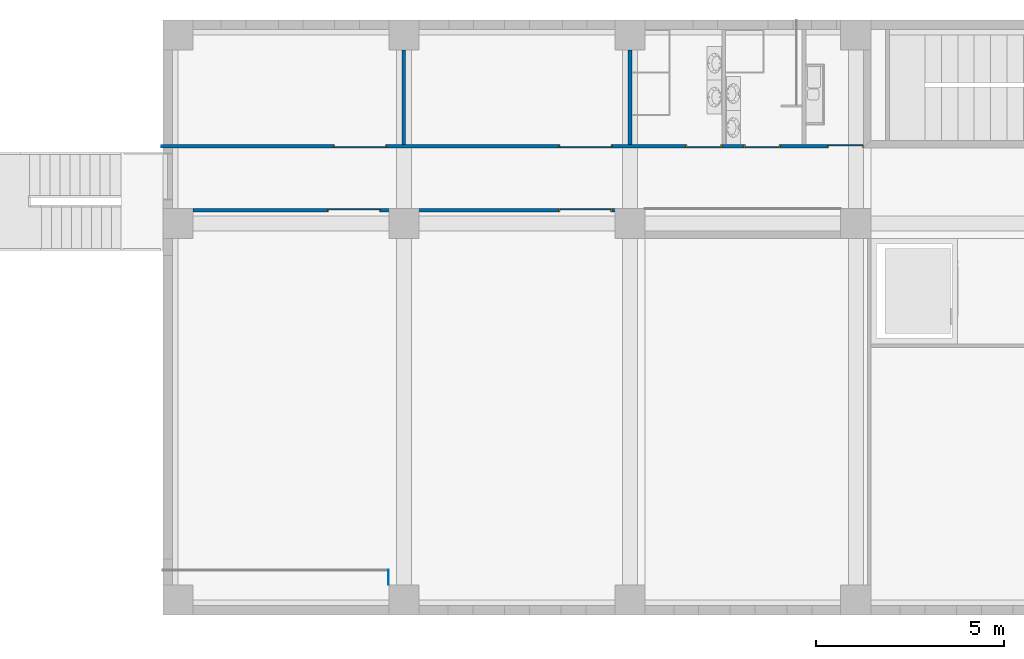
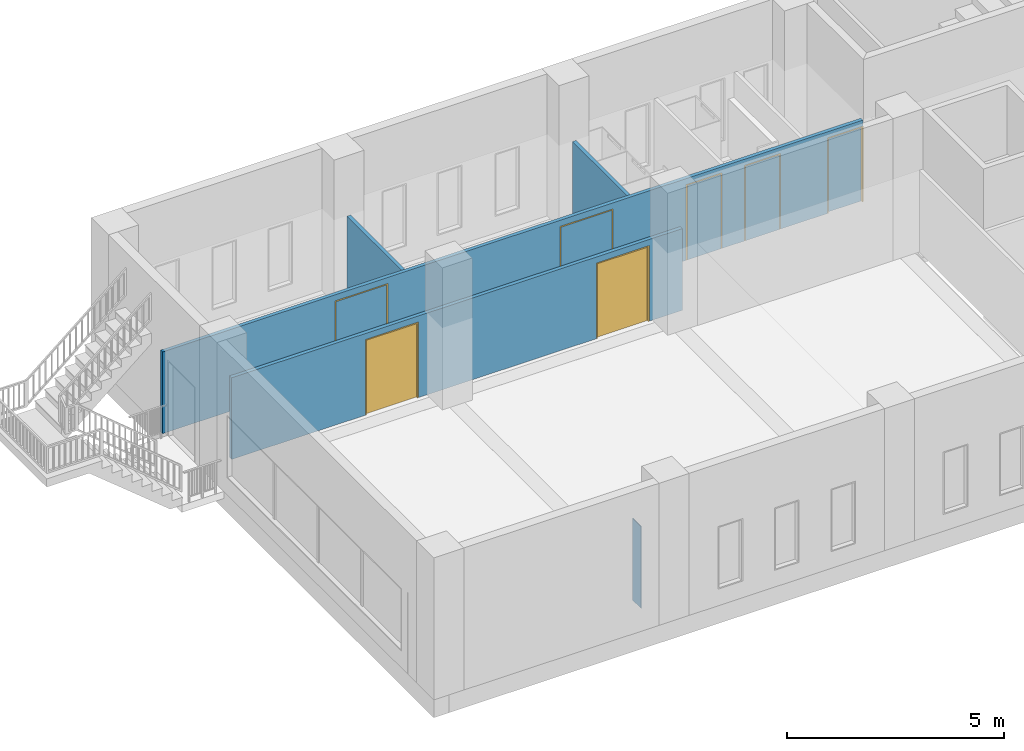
# One storey, part 2 of 14: 7 doors, 5 walls, 7 openings.
"""IFC2X3 building model written with IfcOpenShell, lengths in millimetres."""

from ifc_helpers import new_model, entity, si_unit, converted_unit, direction, frame, origin_with_axes, origin_2d_with_axis, place, context, project, spatial, polyline, rectangle, outline, extrude, open_shell, surface_model, material, layer, layer_set, layer_usage, type_object, element, fill, save


model = new_model("IFC2X3")

# Units and contexts
model_context = context("Model", 3, precision=1e-05, world=origin_with_axes(), true_north=direction((0.0, 1.0)))
ifc_project = project(units=[si_unit("LENGTHUNIT", "METRE", prefix="MILLI"), si_unit("AREAUNIT", "SQUARE_METRE"), si_unit("VOLUMEUNIT", "CUBIC_METRE"), converted_unit("PLANEANGLEUNIT", "DEGREE", entity("IfcPlaneAngleMeasure", 0.017453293), si_unit("PLANEANGLEUNIT", "RADIAN"), dimensions=[0, 0, 0, 0, 0, 0, 0]), si_unit("SOLIDANGLEUNIT", "STERADIAN"), si_unit("MASSUNIT", "GRAM"), si_unit("TIMEUNIT", "SECOND"), si_unit("THERMODYNAMICTEMPERATUREUNIT", "DEGREE_CELSIUS"), si_unit("LUMINOUSINTENSITYUNIT", "LUMEN")], contexts=[model_context])

# Site, building, storey
site_placement = place(None, origin_with_axes())
site = spatial("IfcSite", under=ifc_project, at=site_placement, Name="\x83T\x83C\x83g", CompositionType="ELEMENT")
building_placement = place(site_placement, origin_with_axes())
building = spatial("IfcBuilding", under=site, at=building_placement, Name="Daitec-Sample 201208", CompositionType="ELEMENT")
storey_placement = place(building_placement, frame((0.0, 0.0, 4000.0), z_axis=(0.0, 0.0, 1.0), x_axis=(1.0, 0.0, 0.0)))
storey = spatial("IfcBuildingStorey", under=building, at=storey_placement, Name="2F", CompositionType="ELEMENT", Elevation=4000.0)

# Wall, openings, doors
ifc_material_1 = material(Name="\x83v\x83\x89\x83X\x83^\x81[\x83{\x81[\x83h")
ifc_layer_1 = layer(ifc_material_1, 15.0, ventilated="UNKNOWN")
ifc_material_2 = material(Name="00_LGS")
ifc_layer_2 = layer(ifc_material_2, 65.0, ventilated="UNKNOWN")
ifc_layer_3 = layer(ifc_material_1, 15.0, ventilated="UNKNOWN")
ifc_layer_set_1 = layer_set([ifc_layer_1, ifc_layer_2, ifc_layer_3])
ifc_layer_usage_1 = layer_usage(ifc_layer_set_1, "AXIS2", "NEGATIVE", 0.0)
wall_type_1 = type_object("IfcWallType", PredefinedType="NOTDEFINED")
wall_1_placement = place(storey_placement, frame((6900.0, 18800.0, 0.0), z_axis=(0.0, 0.0, 1.0), x_axis=(1.0, 0.0, 0.0)))
wall_1 = element("IfcWallStandardCase", 1, at=wall_1_placement, inside=storey, type_object=wall_type_1, material=ifc_layer_usage_1, Name="W0", context=model_context, shape_type="SweptSolid", body=[
    extrude(outline(polyline([(0.0, -95.0), (12000.0, -95.0), (12000.0, 0.0), (0.0, 0.0), (0.0, -95.0)])), origin_with_axes(), (0.0, 0.0, 1.0), 2300.0),
])
opening_1_placement = place(wall_1_placement, frame((10415.263, 0.0, 0.0), z_axis=(0.0, 0.0, 1.0), x_axis=(1.0, 0.0, 0.0)))
opening_1 = element("IfcOpeningElement", 2, at=opening_1_placement, cuts=wall_1, context=model_context, shape_type="SweptSolid", body=[
    extrude(rectangle(XDim=1410.0, YDim=2130.0, at=origin_2d_with_axis()), frame((0.0, -46.5, 1065.0), z_axis=(0.0, -1.0, 0.0), x_axis=(1.0, 0.0, 0.0)), (0.0, 0.0, 1.0), 97.0),
])
opening_2_placement = place(wall_1_placement, frame((4270.5873, 0.0, 0.0), z_axis=(0.0, 0.0, 1.0), x_axis=(1.0, 0.0, 0.0)))
opening_2 = element("IfcOpeningElement", 3, at=opening_2_placement, cuts=wall_1, context=model_context, shape_type="SweptSolid", body=[
    extrude(rectangle(XDim=1410.0, YDim=2130.0, at=origin_2d_with_axis()), frame((0.0, -46.5, 1065.0), z_axis=(0.0, -1.0, 0.0), x_axis=(1.0, 0.0, 0.0)), (0.0, 0.0, 1.0), 97.0),
])
ifc_material_3 = material(Name="\x94w\x8ci")
door_style_1 = type_object("IfcDoorStyle", Name="\x90e\x8eq\x8aJ\x82«\x8cË_JX5", ConstructionType="NOTDEFINED", OperationType="NOTDEFINED", ParameterTakesPrecedence=False, Sizeable=False)
door_1_placement = place(opening_1_placement, frame((-675.0, 0.0, 0.0), z_axis=(0.0, 0.0, 1.0), x_axis=(1.0, 0.0, 0.0)))
door_1 = element("IfcDoor", 4, at=door_1_placement, inside=storey, type_object=door_style_1, material=ifc_material_3, Name="SD8", OverallHeight=2100.0, OverallWidth=1350.0, context=model_context, shape_type="SurfaceModel", body=[
    surface_model("IfcShellBasedSurfaceModel", [(900.0, -47.5, 0.0), (900.0, -47.5, 2100.0), (0.0, -47.5, 2100.0), (0.0, -47.5, 0.0)], [open_shell([[[0, 1, 2, 3]]])]),
    surface_model("IfcShellBasedSurfaceModel", [(900.0, -47.5, 0.0), (1350.0, -47.5, 0.0), (1350.0, -47.5, 2100.0), (900.0, -47.5, 2100.0)], [open_shell([[[0, 1, 2, 3]]])]),
    surface_model("IfcShellBasedSurfaceModel", [(1380.0, -95.0, 0.0), (1380.0, -95.0, 2130.0), (-30.0, -95.0, 2130.0), (-30.0, -95.0, 0.0), (0.0, -95.0, 0.0), (0.0, -95.0, 2100.0), (1350.0, -95.0, 2100.0), (1350.0, -95.0, 0.0)], [open_shell([[[0, 1, 2, 3, 4, 5, 6, 7]]])]),
    surface_model("IfcShellBasedSurfaceModel", [(1380.0, 0.0, 0.0), (1380.0, 0.0, 2130.0), (-30.0, 0.0, 2130.0), (-30.0, 0.0, 0.0), (0.0, 0.0, 0.0), (0.0, 0.0, 2100.0), (1350.0, 0.0, 2100.0), (1350.0, 0.0, 0.0)], [open_shell([[[0, 1, 2, 3, 4, 5, 6, 7]]])]),
    surface_model("IfcShellBasedSurfaceModel", [(1350.0, -95.0, 0.0), (1350.0, -95.0, 2100.0), (1350.0, 0.0, 2100.0), (1350.0, 0.0, 0.0), (0.0, -95.0, 2100.0), (0.0, 0.0, 2100.0), (1380.0, -95.0, 0.0), (1380.0, 0.0, 0.0), (0.0, -95.0, 0.0), (0.0, 0.0, 0.0), (1380.0, -95.0, 2130.0), (1380.0, 0.0, 2130.0), (-30.0, -95.0, 0.0), (-30.0, 0.0, 0.0), (-30.0, -95.0, 2130.0), (-30.0, 0.0, 2130.0)], [open_shell([[[0, 1, 2, 3]], [[1, 4, 5, 2]], [[6, 0, 3, 7]], [[4, 8, 9, 5]], [[10, 6, 7, 11]], [[8, 12, 13, 9]], [[14, 10, 11, 15]], [[12, 14, 15, 13]]])]),
])
fill(opening_1, door_1)
door_2_placement = place(opening_2_placement, frame((-675.0, 0.0, 0.0), z_axis=(0.0, 0.0, 1.0), x_axis=(1.0, 0.0, 0.0)))
door_2 = element("IfcDoor", 5, at=door_2_placement, inside=storey, type_object=door_style_1, material=ifc_material_3, Name="SD2", OverallHeight=2100.0, OverallWidth=1350.0, context=model_context, shape_type="SurfaceModel", body=[
    surface_model("IfcShellBasedSurfaceModel", [(900.0, -47.5, 0.0), (900.0, -47.5, 2100.0), (0.0, -47.5, 2100.0), (0.0, -47.5, 0.0)], [open_shell([[[0, 1, 2, 3]]])]),
    surface_model("IfcShellBasedSurfaceModel", [(900.0, -47.5, 0.0), (1350.0, -47.5, 0.0), (1350.0, -47.5, 2100.0), (900.0, -47.5, 2100.0)], [open_shell([[[0, 1, 2, 3]]])]),
    surface_model("IfcShellBasedSurfaceModel", [(1380.0, -95.0, 0.0), (1380.0, -95.0, 2130.0), (-30.0, -95.0, 2130.0), (-30.0, -95.0, 0.0), (0.0, -95.0, 0.0), (0.0, -95.0, 2100.0), (1350.0, -95.0, 2100.0), (1350.0, -95.0, 0.0)], [open_shell([[[0, 1, 2, 3, 4, 5, 6, 7]]])]),
    surface_model("IfcShellBasedSurfaceModel", [(1380.0, 0.0, 0.0), (1380.0, 0.0, 2130.0), (-30.0, 0.0, 2130.0), (-30.0, 0.0, 0.0), (0.0, 0.0, 0.0), (0.0, 0.0, 2100.0), (1350.0, 0.0, 2100.0), (1350.0, 0.0, 0.0)], [open_shell([[[0, 1, 2, 3, 4, 5, 6, 7]]])]),
    surface_model("IfcShellBasedSurfaceModel", [(1350.0, -95.0, 0.0), (1350.0, -95.0, 2100.0), (1350.0, 0.0, 2100.0), (1350.0, 0.0, 0.0), (0.0, -95.0, 2100.0), (0.0, 0.0, 2100.0), (1380.0, -95.0, 0.0), (1380.0, 0.0, 0.0), (0.0, -95.0, 0.0), (0.0, 0.0, 0.0), (1380.0, -95.0, 2130.0), (1380.0, 0.0, 2130.0), (-30.0, -95.0, 0.0), (-30.0, 0.0, 0.0), (-30.0, -95.0, 2130.0), (-30.0, 0.0, 2130.0)], [open_shell([[[0, 1, 2, 3]], [[1, 4, 5, 2]], [[6, 0, 3, 7]], [[4, 8, 9, 5]], [[10, 6, 7, 11]], [[8, 12, 13, 9]], [[14, 10, 11, 15]], [[12, 14, 15, 13]]])]),
])
fill(opening_2, door_2)

# Walls
ifc_layer_usage_2 = layer_usage(ifc_layer_set_1, "AXIS2", "POSITIVE", 0.0)
wall_2_placement = place(storey_placement, frame((18455.75, 23000.0, 0.0), z_axis=(0.0, 0.0, 1.0), x_axis=(0.0, -1.0, 0.0)))
element("IfcWallStandardCase", 6, at=wall_2_placement, inside=storey, type_object=wall_type_1, material=ifc_layer_usage_2, Name="W5", context=model_context, shape_type="SweptSolid", body=[
    extrude(outline(polyline([(0.0, 0.0), (2504.8739, 0.0), (2504.8739, 95.0), (0.0, 95.0), (0.0, 0.0)])), origin_with_axes(), (0.0, 0.0, 1.0), 2300.0),
])
ifc_layer_usage_3 = layer_usage(ifc_layer_set_1, "AXIS2", "NEGATIVE", 47.5)
wall_3_placement = place(storey_placement, frame((12500.0, 23000.0, 0.0), z_axis=(0.0, 0.0, 1.0), x_axis=(0.0, -1.0, 0.0)))
element("IfcWallStandardCase", 7, at=wall_3_placement, inside=storey, type_object=wall_type_1, material=ifc_layer_usage_3, Name="W5", context=model_context, shape_type="SweptSolid", body=[
    extrude(outline(polyline([(0.0, -47.5), (2504.8739, -47.5), (2504.8739, 47.5), (0.0, 47.5), (0.0, -47.5)])), origin_with_axes(), (0.0, 0.0, 1.0), 2300.0),
])

# Wall, openings, doors
ifc_layer_usage_4 = layer_usage(ifc_layer_set_1, "AXIS2", "NEGATIVE", 47.5)
wall_4_placement = place(storey_placement, frame((6038.448, 20447.626, 0.0), z_axis=(0.0, 0.0, 1.0), x_axis=(1.0, 0.0, 0.0)))
wall_4 = element("IfcWallStandardCase", 8, at=wall_4_placement, inside=storey, type_object=wall_type_1, material=ifc_layer_usage_4, Name="W3", context=model_context, shape_type="SweptSolid", body=[
    extrude(outline(polyline([(0.0, -47.5), (18651.119, -47.5), (18651.119, 47.5), (0.0, 47.5), (0.0, -47.5)])), origin_with_axes(), (0.0, 0.0, 1.0), 2300.0),
])
opening_3_placement = place(wall_4_placement, frame((18184.381, 0.0, 0.0), z_axis=(0.0, 0.0, 1.0), x_axis=(1.0, 0.0, 0.0)))
opening_3 = element("IfcOpeningElement", 9, at=opening_3_placement, cuts=wall_4, context=model_context, shape_type="SweptSolid", body=[
    extrude(rectangle(XDim=960.0, YDim=2130.0, at=origin_2d_with_axis()), frame((0.0, 1.0, 1065.0), z_axis=(0.0, -1.0, 0.0), x_axis=(1.0, 0.0, 0.0)), (0.0, 0.0, 1.0), 97.0),
])
opening_4_placement = place(wall_4_placement, frame((15977.651, 0.0, 0.0), z_axis=(0.0, 0.0, 1.0), x_axis=(1.0, 0.0, 0.0)))
opening_4 = element("IfcOpeningElement", 10, at=opening_4_placement, cuts=wall_4, context=model_context, shape_type="SweptSolid", body=[
    extrude(rectangle(XDim=960.0, YDim=2130.0, at=origin_2d_with_axis()), frame((0.0, 96.0, 1065.0), z_axis=(0.0, -1.0, 0.0), x_axis=(1.0, 0.0, 0.0)), (0.0, 0.0, 1.0), 97.0),
])
opening_5_placement = place(wall_4_placement, frame((5293.5018, 0.0, 0.0), z_axis=(0.0, 0.0, 1.0), x_axis=(1.0, 0.0, 0.0)))
opening_5 = element("IfcOpeningElement", 11, at=opening_5_placement, cuts=wall_4, context=model_context, shape_type="SweptSolid", body=[
    extrude(rectangle(XDim=1410.0, YDim=2130.0, at=origin_2d_with_axis()), frame((0.0, 96.0, 1065.0), z_axis=(0.0, -1.0, 0.0), x_axis=(1.0, 0.0, 0.0)), (0.0, 0.0, 1.0), 97.0),
])
opening_6_placement = place(wall_4_placement, frame((14423.879, 0.0, 0.0), z_axis=(0.0, 0.0, 1.0), x_axis=(1.0, 0.0, 0.0)))
opening_6 = element("IfcOpeningElement", 12, at=opening_6_placement, cuts=wall_4, context=model_context, shape_type="SweptSolid", body=[
    extrude(rectangle(XDim=960.0, YDim=2130.0, at=origin_2d_with_axis()), frame((0.0, 96.0, 1065.0), z_axis=(0.0, -1.0, 0.0), x_axis=(1.0, 0.0, 0.0)), (0.0, 0.0, 1.0), 97.0),
])
opening_7_placement = place(wall_4_placement, frame((11288.302, 0.0, 0.0), z_axis=(0.0, 0.0, 1.0), x_axis=(1.0, 0.0, 0.0)))
opening_7 = element("IfcOpeningElement", 13, at=opening_7_placement, cuts=wall_4, context=model_context, shape_type="SweptSolid", body=[
    extrude(rectangle(XDim=1410.0, YDim=2130.0, at=origin_2d_with_axis()), frame((0.0, 96.0, 1065.0), z_axis=(0.0, -1.0, 0.0), x_axis=(1.0, 0.0, 0.0)), (0.0, 0.0, 1.0), 97.0),
])
door_3_placement = place(opening_5_placement, frame((675.0, 0.0, 0.0), z_axis=(0.0, 0.0, 1.0), x_axis=(-1.0, 0.0, 0.0)))
door_3 = element("IfcDoor", 14, at=door_3_placement, inside=storey, type_object=door_style_1, material=ifc_material_3, Name="SD4", OverallHeight=2100.0, OverallWidth=1350.0, context=model_context, shape_type="SurfaceModel", body=[
    surface_model("IfcShellBasedSurfaceModel", [(450.0, 0.0, 0.0), (1350.0, 0.0, 0.0), (1350.0, 0.0, 2100.0), (450.0, 0.0, 2100.0)], [open_shell([[[0, 1, 2, 3]]])]),
    surface_model("IfcShellBasedSurfaceModel", [(450.0, 0.0, 0.0), (450.0, 0.0, 2100.0), (0.0, 0.0, 2100.0), (0.0, 0.0, 0.0)], [open_shell([[[0, 1, 2, 3]]])]),
    surface_model("IfcShellBasedSurfaceModel", [(-30.0, -47.5, 0.0), (0.0, -47.5, 0.0), (0.0, -47.5, 2100.0), (1350.0, -47.5, 2100.0), (1350.0, -47.5, 0.0), (1380.0, -47.5, 0.0), (1380.0, -47.5, 2130.0), (-30.0, -47.5, 2130.0)], [open_shell([[[0, 1, 2, 3, 4, 5, 6, 7]]])]),
    surface_model("IfcShellBasedSurfaceModel", [(-30.0, 47.5, 0.0), (0.0, 47.5, 0.0), (0.0, 47.5, 2100.0), (1350.0, 47.5, 2100.0), (1350.0, 47.5, 0.0), (1380.0, 47.5, 0.0), (1380.0, 47.5, 2130.0), (-30.0, 47.5, 2130.0)], [open_shell([[[0, 1, 2, 3, 4, 5, 6, 7]]])]),
    surface_model("IfcShellBasedSurfaceModel", [(0.0, -47.5, 0.0), (0.0, 47.5, 0.0), (0.0, 47.5, 2100.0), (0.0, -47.5, 2100.0), (-30.0, -47.5, 0.0), (-30.0, 47.5, 0.0), (1350.0, 47.5, 2100.0), (1350.0, -47.5, 2100.0), (-30.0, -47.5, 2130.0), (-30.0, 47.5, 2130.0), (1350.0, 47.5, 0.0), (1350.0, -47.5, 0.0), (1380.0, -47.5, 2130.0), (1380.0, 47.5, 2130.0), (1380.0, 47.5, 0.0), (1380.0, -47.5, 0.0)], [open_shell([[[0, 1, 2, 3]], [[4, 5, 1, 0]], [[3, 2, 6, 7]], [[8, 9, 5, 4]], [[7, 6, 10, 11]], [[12, 13, 9, 8]], [[11, 10, 14, 15]], [[15, 14, 13, 12]]])]),
])
fill(opening_5, door_3)
door_4_placement = place(opening_7_placement, frame((675.0, 0.0, 0.0), z_axis=(0.0, 0.0, 1.0), x_axis=(-1.0, 0.0, 0.0)))
door_4 = element("IfcDoor", 15, at=door_4_placement, inside=storey, type_object=door_style_1, material=ifc_material_3, Name="SD8", OverallHeight=2100.0, OverallWidth=1350.0, context=model_context, shape_type="SurfaceModel", body=[
    surface_model("IfcShellBasedSurfaceModel", [(450.0, 0.0, 0.0), (1350.0, 0.0, 0.0), (1350.0, 0.0, 2100.0), (450.0, 0.0, 2100.0)], [open_shell([[[0, 1, 2, 3]]])]),
    surface_model("IfcShellBasedSurfaceModel", [(450.0, 0.0, 0.0), (450.0, 0.0, 2100.0), (0.0, 0.0, 2100.0), (0.0, 0.0, 0.0)], [open_shell([[[0, 1, 2, 3]]])]),
    surface_model("IfcShellBasedSurfaceModel", [(-30.0, -47.5, 0.0), (0.0, -47.5, 0.0), (0.0, -47.5, 2100.0), (1350.0, -47.5, 2100.0), (1350.0, -47.5, 0.0), (1380.0, -47.5, 0.0), (1380.0, -47.5, 2130.0), (-30.0, -47.5, 2130.0)], [open_shell([[[0, 1, 2, 3, 4, 5, 6, 7]]])]),
    surface_model("IfcShellBasedSurfaceModel", [(-30.0, 47.5, 0.0), (0.0, 47.5, 0.0), (0.0, 47.5, 2100.0), (1350.0, 47.5, 2100.0), (1350.0, 47.5, 0.0), (1380.0, 47.5, 0.0), (1380.0, 47.5, 2130.0), (-30.0, 47.5, 2130.0)], [open_shell([[[0, 1, 2, 3, 4, 5, 6, 7]]])]),
    surface_model("IfcShellBasedSurfaceModel", [(0.0, -47.5, 0.0), (0.0, 47.5, 0.0), (0.0, 47.5, 2100.0), (0.0, -47.5, 2100.0), (-30.0, -47.5, 0.0), (-30.0, 47.5, 0.0), (1350.0, 47.5, 2100.0), (1350.0, -47.5, 2100.0), (-30.0, -47.5, 2130.0), (-30.0, 47.5, 2130.0), (1350.0, 47.5, 0.0), (1350.0, -47.5, 0.0), (1380.0, -47.5, 2130.0), (1380.0, 47.5, 2130.0), (1380.0, 47.5, 0.0), (1380.0, -47.5, 0.0)], [open_shell([[[0, 1, 2, 3]], [[4, 5, 1, 0]], [[3, 2, 6, 7]], [[8, 9, 5, 4]], [[7, 6, 10, 11]], [[12, 13, 9, 8]], [[11, 10, 14, 15]], [[15, 14, 13, 12]]])]),
])
fill(opening_7, door_4)
door_style_2 = type_object("IfcDoorStyle", ConstructionType="NOTDEFINED", OperationType="NOTDEFINED", ParameterTakesPrecedence=False, Sizeable=False)
door_5_placement = place(opening_4_placement, frame((-450.0, 0.0, 0.0), z_axis=(0.0, 0.0, 1.0), x_axis=(1.0, 0.0, 0.0)))
door_5 = element("IfcDoor", 16, at=door_5_placement, inside=storey, type_object=door_style_2, material=ifc_material_3, Name="SD3", OverallHeight=2100.0, OverallWidth=900.0, context=model_context, shape_type="SurfaceModel", body=[
    surface_model("IfcShellBasedSurfaceModel", [(900.0, 0.0, 0.0), (0.0, 0.0, 0.0), (0.0, 0.0, 2100.0), (900.0, 0.0, 2100.0)], [open_shell([[[0, 1, 2, 3]]])]),
    surface_model("IfcShellBasedSurfaceModel", [(930.0, 47.5, 0.0), (900.0, 47.5, 0.0), (900.0, 47.5, 2100.0), (0.0, 47.5, 2100.0), (0.0, 47.5, 0.0), (-30.0, 47.5, 0.0), (-30.0, 47.5, 2130.0), (930.0, 47.5, 2130.0)], [open_shell([[[0, 1, 2, 3, 4, 5, 6, 7]]])]),
    surface_model("IfcShellBasedSurfaceModel", [(930.0, -47.5, 0.0), (900.0, -47.5, 0.0), (900.0, -47.5, 2100.0), (0.0, -47.5, 2100.0), (0.0, -47.5, 0.0), (-30.0, -47.5, 0.0), (-30.0, -47.5, 2130.0), (930.0, -47.5, 2130.0)], [open_shell([[[0, 1, 2, 3, 4, 5, 6, 7]]])]),
    surface_model("IfcShellBasedSurfaceModel", [(900.0, 47.5, 0.0), (900.0, -47.5, 0.0), (900.0, -47.5, 2100.0), (900.0, 47.5, 2100.0), (930.0, 47.5, 0.0), (930.0, -47.5, 0.0), (0.0, -47.5, 2100.0), (0.0, 47.5, 2100.0), (930.0, 47.5, 2130.0), (930.0, -47.5, 2130.0), (0.0, -47.5, 0.0), (0.0, 47.5, 0.0), (-30.0, 47.5, 2130.0), (-30.0, -47.5, 2130.0), (-30.0, -47.5, 0.0), (-30.0, 47.5, 0.0)], [open_shell([[[0, 1, 2, 3]], [[4, 5, 1, 0]], [[3, 2, 6, 7]], [[8, 9, 5, 4]], [[7, 6, 10, 11]], [[12, 13, 9, 8]], [[11, 10, 14, 15]], [[15, 14, 13, 12]]])]),
])
fill(opening_4, door_5)
door_6_placement = place(opening_6_placement, frame((-450.0, 0.0, 0.0), z_axis=(0.0, 0.0, 1.0), x_axis=(1.0, 0.0, 0.0)))
door_6 = element("IfcDoor", 17, at=door_6_placement, inside=storey, type_object=door_style_2, material=ifc_material_3, Name="SD3", OverallHeight=2100.0, OverallWidth=900.0, context=model_context, shape_type="SurfaceModel", body=[
    surface_model("IfcShellBasedSurfaceModel", [(900.0, 0.0, 0.0), (0.0, 0.0, 0.0), (0.0, 0.0, 2100.0), (900.0, 0.0, 2100.0)], [open_shell([[[0, 1, 2, 3]]])]),
    surface_model("IfcShellBasedSurfaceModel", [(930.0, 47.5, 0.0), (900.0, 47.5, 0.0), (900.0, 47.5, 2100.0), (0.0, 47.5, 2100.0), (0.0, 47.5, 0.0), (-30.0, 47.5, 0.0), (-30.0, 47.5, 2130.0), (930.0, 47.5, 2130.0)], [open_shell([[[0, 1, 2, 3, 4, 5, 6, 7]]])]),
    surface_model("IfcShellBasedSurfaceModel", [(930.0, -47.5, 0.0), (900.0, -47.5, 0.0), (900.0, -47.5, 2100.0), (0.0, -47.5, 2100.0), (0.0, -47.5, 0.0), (-30.0, -47.5, 0.0), (-30.0, -47.5, 2130.0), (930.0, -47.5, 2130.0)], [open_shell([[[0, 1, 2, 3, 4, 5, 6, 7]]])]),
    surface_model("IfcShellBasedSurfaceModel", [(900.0, 47.5, 0.0), (900.0, -47.5, 0.0), (900.0, -47.5, 2100.0), (900.0, 47.5, 2100.0), (930.0, 47.5, 0.0), (930.0, -47.5, 0.0), (0.0, -47.5, 2100.0), (0.0, 47.5, 2100.0), (930.0, 47.5, 2130.0), (930.0, -47.5, 2130.0), (0.0, -47.5, 0.0), (0.0, 47.5, 0.0), (-30.0, 47.5, 2130.0), (-30.0, -47.5, 2130.0), (-30.0, -47.5, 0.0), (-30.0, 47.5, 0.0)], [open_shell([[[0, 1, 2, 3]], [[4, 5, 1, 0]], [[3, 2, 6, 7]], [[8, 9, 5, 4]], [[7, 6, 10, 11]], [[12, 13, 9, 8]], [[11, 10, 14, 15]], [[15, 14, 13, 12]]])]),
])
fill(opening_6, door_6)
door_style_3 = type_object("IfcDoorStyle", ConstructionType="NOTDEFINED", OperationType="NOTDEFINED", ParameterTakesPrecedence=False, Sizeable=False)
door_7_placement = place(opening_3_placement, frame((-450.0, 0.0, 0.0), z_axis=(0.0, 0.0, 1.0), x_axis=(1.0, 0.0, 0.0)))
door_7 = element("IfcDoor", 18, at=door_7_placement, inside=storey, type_object=door_style_3, material=ifc_material_3, Name="SD2", OverallHeight=2100.0, OverallWidth=900.0, context=model_context, shape_type="SurfaceModel", body=[
    surface_model("IfcShellBasedSurfaceModel", [(930.0, -47.5, 0.0), (930.0, -47.5, 2130.0), (-30.0, -47.5, 2130.0), (-30.0, -47.5, 0.0), (0.0, -47.5, 0.0), (0.0, -47.5, 2100.0), (900.0, -47.5, 2100.0), (900.0, -47.5, 0.0)], [open_shell([[[0, 1, 2, 3, 4, 5, 6, 7]]])]),
    surface_model("IfcShellBasedSurfaceModel", [(930.0, 47.5, 0.0), (930.0, 47.5, 2130.0), (-30.0, 47.5, 2130.0), (-30.0, 47.5, 0.0), (0.0, 47.5, 0.0), (0.0, 47.5, 2100.0), (900.0, 47.5, 2100.0), (900.0, 47.5, 0.0)], [open_shell([[[0, 1, 2, 3, 4, 5, 6, 7]]])]),
    surface_model("IfcShellBasedSurfaceModel", [(900.0, -47.5, 0.0), (900.0, -47.5, 2100.0), (900.0, 47.5, 2100.0), (900.0, 47.5, 0.0), (0.0, -47.5, 2100.0), (0.0, 47.5, 2100.0), (930.0, -47.5, 0.0), (930.0, 47.5, 0.0), (0.0, -47.5, 0.0), (0.0, 47.5, 0.0), (930.0, -47.5, 2130.0), (930.0, 47.5, 2130.0), (-30.0, -47.5, 0.0), (-30.0, 47.5, 0.0), (-30.0, -47.5, 2130.0), (-30.0, 47.5, 2130.0)], [open_shell([[[0, 1, 2, 3]], [[1, 4, 5, 2]], [[6, 0, 3, 7]], [[4, 8, 9, 5]], [[10, 6, 7, 11]], [[8, 12, 13, 9]], [[14, 10, 11, 15]], [[12, 14, 15, 13]]])]),
])
fill(opening_3, door_7)

# Wall
ifc_material_4 = material(Name="\x83R\x83\x93\x83N\x83\x8a\x81[\x83g-\x8cy\x97Ê")
ifc_layer_4 = layer(ifc_material_4, 20.0, ventilated="UNKNOWN")
ifc_layer_set_2 = layer_set([ifc_layer_4], Name="\x83R\x83\x93\x83N\x83\x8a\x81[\x83g-\x8cy\x97Ê 20")
ifc_layer_usage_5 = layer_usage(ifc_layer_set_2, "AXIS2", "NEGATIVE", 0.0)
wall_type_2 = type_object("IfcWallType", Name="\x83R\x83\x93\x83N\x83\x8a\x81[\x83g-\x8cy\x97Ê 20", PredefinedType="NOTDEFINED")
wall_5_placement = place(storey_placement, frame((12100.0, 9200.0, 0.0), z_axis=(0.0, 0.0, 1.0), x_axis=(0.0, -1.0, 0.0)))
element("IfcWallStandardCase", 19, at=wall_5_placement, inside=storey, type_object=wall_type_2, material=ifc_layer_usage_5, Name="W3", context=model_context, shape_type="SweptSolid", body=[
    extrude(outline(polyline([(0.0, -20.0), (400.0, -20.0), (400.0, 0.0), (0.0, 0.0), (0.0, -20.0)])), origin_with_axes(), (0.0, 0.0, 1.0), 2300.0),
])

save(model, "model.ifc")
